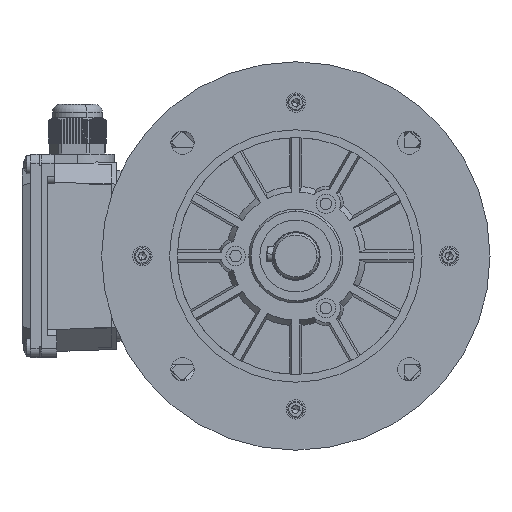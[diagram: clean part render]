
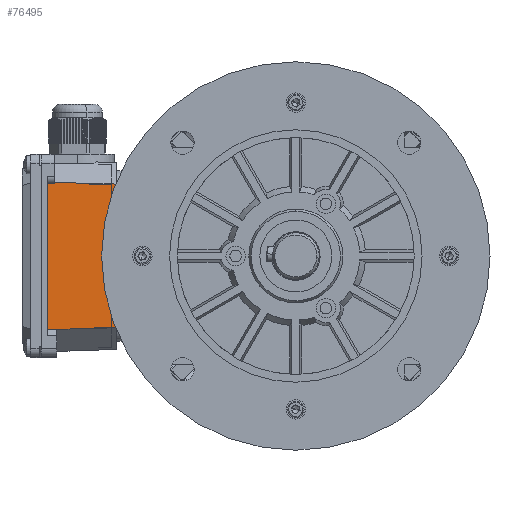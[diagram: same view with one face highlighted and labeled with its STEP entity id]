
A CAD part, left-side view. The second image highlights one B-rep face of the part: STEP entity #76495.
In plain terms, the highlighted planar face has unit normal (-0.999, -0.035, 0.001) as drawn and (-0.035, -0.001, 0.999) by its records, which use the part's own axes.
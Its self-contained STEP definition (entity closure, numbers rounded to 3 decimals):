
#2914 = VERTEX_POINT ( 'NONE', #54564 ) ;
#3511 = LINE ( 'NONE', #103614, #18166 ) ;
#3886 = LINE ( 'NONE', #103986, #97082 ) ;
#6966 = CARTESIAN_POINT ( 'NONE',  ( 31.875, -49.393, 49.092 ) ) ;
#7354 = VECTOR ( 'NONE', #107524, 1000. ) ;
#7412 = CARTESIAN_POINT ( 'NONE',  ( 30.5, -49.393, 49.044 ) ) ;
#8270 = DIRECTION ( 'NONE',  ( 0., -1., -0.001 ) ) ;
#9879 = CARTESIAN_POINT ( 'NONE',  ( 40.5, 38.036, 49.5 ) ) ;
#10588 = VERTEX_POINT ( 'NONE', #89981 ) ;
#14134 = CARTESIAN_POINT ( 'NONE',  ( 35.5, -37.116, 49.234 ) ) ;
#18166 = VECTOR ( 'NONE', #92151, 1000. ) ;
#18410 = LINE ( 'NONE', #6966, #95031 ) ;
#18838 = LINE ( 'NONE', #7412, #7354 ) ;
#19691 = CARTESIAN_POINT ( 'NONE',  ( 35.5, -49.393, 49.219 ) ) ;
#21267 = LINE ( 'NONE', #9879, #54535 ) ;
#21507 = EDGE_CURVE ( 'NONE', #37815, #25425, #75983, .T. ) ;
#22139 = EDGE_CURVE ( 'NONE', #31424, #2914, #81139, .T. ) ;
#25425 = VERTEX_POINT ( 'NONE', #36404 ) ;
#25544 = CARTESIAN_POINT ( 'NONE',  ( 34.294, -37.11, 49.192 ) ) ;
#25690 = EDGE_LOOP ( 'NONE', ( #49295, #86161, #93102, #57253, #54694, #56003, #43297, #40227 ) ) ;
#25696 = FACE_OUTER_BOUND ( 'NONE', #25690, .T. ) ;
#26209 = DIRECTION ( 'NONE',  ( -0.999, 0., -0.035 ) ) ;
#27812 = CARTESIAN_POINT ( 'NONE',  ( 30.5, 37.767, 49.151 ) ) ;
#30490 = CARTESIAN_POINT ( 'NONE',  ( 35.5, 37.901, 49.325 ) ) ;
#31068 = LINE ( 'NONE', #19691, #47476 ) ;
#31424 = VERTEX_POINT ( 'NONE', #85340 ) ;
#35463 = DIRECTION ( 'NONE',  ( -0.999, 0.027, -0.035 ) ) ;
#35507 = EDGE_CURVE ( 'NONE', #111206, #25425, #31068, .T. ) ;
#35999 = EDGE_CURVE ( 'NONE', #37815, #31424, #18410, .T. ) ;
#36404 = CARTESIAN_POINT ( 'NONE',  ( 35.5, -37.116, 49.234 ) ) ;
#36955 = CARTESIAN_POINT ( 'NONE',  ( 33.086, -37.104, 49.15 ) ) ;
#37613 = DIRECTION ( 'NONE',  ( 0.035, 0.001, -0.999 ) ) ;
#37815 = VERTEX_POINT ( 'NONE', #79697 ) ;
#40041 = VECTOR ( 'NONE', #35463, 1000. ) ;
#40059 = AXIS2_PLACEMENT_3D ( 'NONE', #49028, #37613, #26209 ) ;
#40227 = ORIENTED_EDGE ( 'NONE', *, *, #35507, .F. ) ;
#43297 = ORIENTED_EDGE ( 'NONE', *, *, #21507, .T. ) ;
#46848 = CARTESIAN_POINT ( 'NONE',  ( 40.501, -38.128, 49.407 ) ) ;
#47476 = VECTOR ( 'NONE', #8270, 1000. ) ;
#48372 = CARTESIAN_POINT ( 'NONE',  ( 31.875, -37.099, 49.107 ) ) ;
#49028 = CARTESIAN_POINT ( 'NONE',  ( 43.553, -49.393, 49.5 ) ) ;
#49295 = ORIENTED_EDGE ( 'NONE', *, *, #67509, .F. ) ;
#54535 = VECTOR ( 'NONE', #109943, 1000. ) ;
#54564 = CARTESIAN_POINT ( 'NONE',  ( 0., -37.04, 47.995 ) ) ;
#54694 = ORIENTED_EDGE ( 'NONE', *, *, #22139, .F. ) ;
#56003 = ORIENTED_EDGE ( 'NONE', *, *, #35999, .F. ) ;
#56960 = VERTEX_POINT ( 'NONE', #105632 ) ;
#57253 = ORIENTED_EDGE ( 'NONE', *, *, #76073, .T. ) ;
#67509 = EDGE_CURVE ( 'NONE', #56960, #111206, #3886, .T. ) ;
#71876 = PLANE ( 'NONE',  #40059 ) ;
#75983 =( BOUNDED_CURVE ( )  B_SPLINE_CURVE ( 3, ( #48372, #36955, #25544, #14134 ),
 .UNSPECIFIED., .F., .F. ) 
 B_SPLINE_CURVE_WITH_KNOTS ( ( 4, 4 ),
 ( 1.693, 1.726 ),
 .UNSPECIFIED. ) 
 CURVE ( )  GEOMETRIC_REPRESENTATION_ITEM ( )  RATIONAL_B_SPLINE_CURVE ( ( 1., 1., 1., 1. ) ) 
 REPRESENTATION_ITEM ( '' )  );
#76073 = EDGE_CURVE ( 'NONE', #10588, #2914, #3511, .T. ) ;
#76495 = ADVANCED_FACE ( 'NONE', ( #25696 ), #71876, .F. ) ;
#79697 = CARTESIAN_POINT ( 'NONE',  ( 31.875, -37.099, 49.107 ) ) ;
#80817 = VERTEX_POINT ( 'NONE', #27812 ) ;
#81139 = LINE ( 'NONE', #46848, #40041 ) ;
#85340 = CARTESIAN_POINT ( 'NONE',  ( 31.875, -37.897, 49.106 ) ) ;
#86161 = ORIENTED_EDGE ( 'NONE', *, *, #100222, .F. ) ;
#89981 = CARTESIAN_POINT ( 'NONE',  ( 0., 36.95, 48.085 ) ) ;
#92151 = DIRECTION ( 'NONE',  ( 0., -1., -0.001 ) ) ;
#92511 = DIRECTION ( 'NONE',  ( 0.999, 0.035, 0.035 ) ) ;
#93102 = ORIENTED_EDGE ( 'NONE', *, *, #93899, .F. ) ;
#93899 = EDGE_CURVE ( 'NONE', #10588, #80817, #21267, .T. ) ;
#95031 = VECTOR ( 'NONE', #107100, 1000. ) ;
#97082 = VECTOR ( 'NONE', #92511, 1000. ) ;
#100222 = EDGE_CURVE ( 'NONE', #80817, #56960, #18838, .T. ) ;
#103614 = CARTESIAN_POINT ( 'NONE',  ( 0., 87.477, 48.147 ) ) ;
#103986 = CARTESIAN_POINT ( 'NONE',  ( 40.497, 38.076, 49.5 ) ) ;
#105632 = CARTESIAN_POINT ( 'NONE',  ( 30.5, 37.727, 49.151 ) ) ;
#107100 = DIRECTION ( 'NONE',  ( 0., -1., -0.001 ) ) ;
#107524 = DIRECTION ( 'NONE',  ( 0., -1., -0.001 ) ) ;
#109943 = DIRECTION ( 'NONE',  ( 0.999, 0.027, 0.035 ) ) ;
#111206 = VERTEX_POINT ( 'NONE', #30490 ) ;
